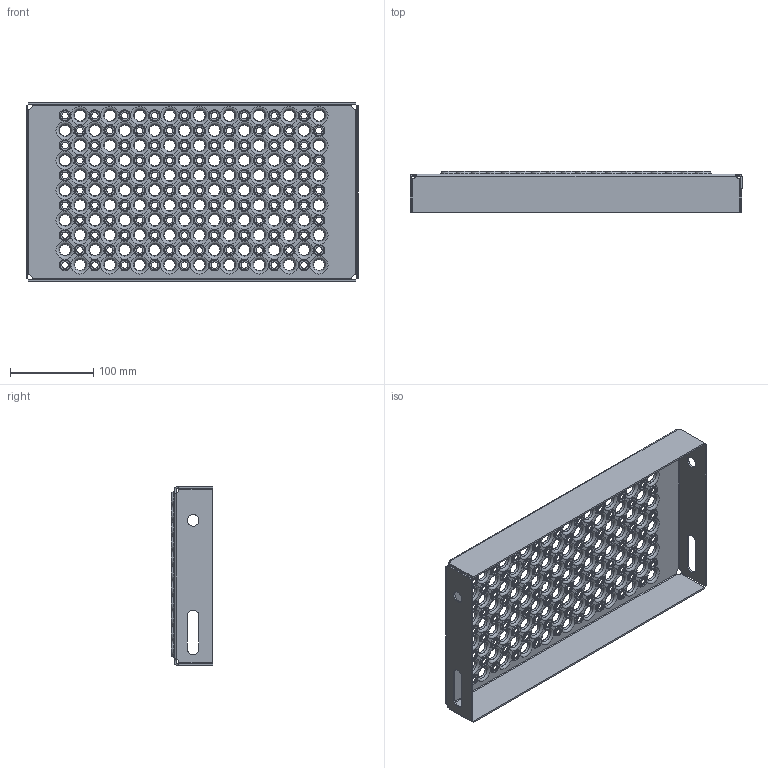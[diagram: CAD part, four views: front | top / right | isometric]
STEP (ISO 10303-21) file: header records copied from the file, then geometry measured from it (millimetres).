
FILE_DESCRIPTION (( 'STEP AP203' ), '1' );
FILE_NAME ('80242104G_Lejdertrin_215x400x45_mm_.STEP', '2015-01-14T05:32:05', ( '' ), ( '' ), 'SwSTEP 2.0', 'SolidWorks 2013', '' );
FILE_SCHEMA (( 'CONFIG_CONTROL_DESIGN' ));
Length unit declared in the file: millimetre
Products named in the file (1): 80242104G_Lejdertrin_215x400x45_mm_
Bounding box: 400 x 49.5 x 215 mm (x, y, z)
Volume: 257610.3 mm3; surface area: 275875.8 mm2
Topology: 1 solids, 1 shells, 1058 faces, 2938 edges, 1882 vertices
Faces by surface type: cone 594, torus 396, cylinder 34, plane 26, bspline 8
Full cylindrical faces by diameter (mm): 14 x2
Entity records: 25033 total; most frequent: DIRECTION 4662, CARTESIAN_POINT 4199, ORIENTED_EDGE 2704, EDGE_LOOP 2454, AXIS2_PLACEMENT_3D 2291, FACE_OUTER_BOUND 1456, EDGE_CURVE 1352, VERTEX_POINT 1288
